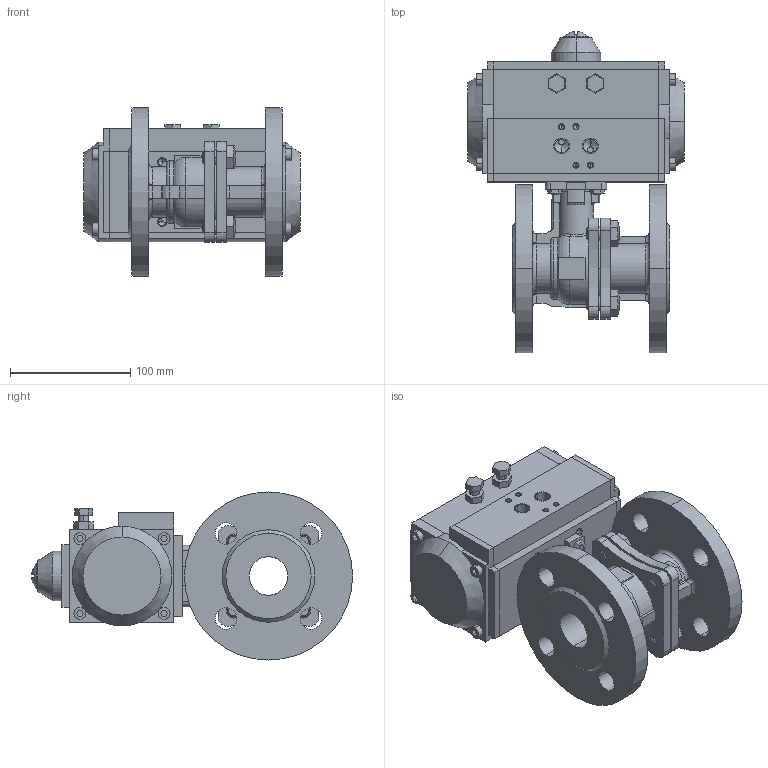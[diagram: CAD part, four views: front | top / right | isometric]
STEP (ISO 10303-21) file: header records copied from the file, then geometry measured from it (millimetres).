
FILE_DESCRIPTION((''),'2;1');
FILE_NAME('BV-22F_RPA_ASM','2024-09-11T',('USER'),(''),'PRO/ENGINEER BY PARAMETRIC TECHNOLOGY CORPORATION, 2011220','PRO/ENGINEER BY PARAMETRIC TECHNOLOGY CORPORATION, 2011220','');
FILE_SCHEMA(('CONFIG_CONTROL_DESIGN'));
Length unit declared in the file: millimetre
Products named in the file (12): KORPUS_KRAN_FL; B-7798-M12-20; SB_KRAN_FL_ASM; KORPUS_PNEVMOPRIVOD; KOLCO_18_GOST13942; KRISKA_VERX; VINT; KRISKA_LEFT; KRISKA_RIGHT; SB_PNEVMOPRIVOD_ASM; B-7798-M6-14; BV-22F_RPA_ASM
Assembly tree (17 placements, depth 3):
  BV-22F_RPA_ASM
    SB_KRAN_FL_ASM
      KORPUS_KRAN_FL
      B-7798-M12-20  x4
    SB_PNEVMOPRIVOD_ASM
      KORPUS_PNEVMOPRIVOD
      KOLCO_18_GOST13942
      KRISKA_VERX
      VINT
      KRISKA_LEFT
      KRISKA_RIGHT
    B-7798-M6-14  x4
Bounding box: 180 x 267.43 x 140 mm (x, y, z)
Volume: 2037356.5 mm3; surface area: 278885.5 mm2
Topology: 15 solids, 49 shells, 824 faces, 2108 edges, 1356 vertices
Faces by surface type: plane 410, cylinder 285, cone 82, torus 29, bspline 14, extrusion 2, sphere 2
Entity records: 23119 total; most frequent: CARTESIAN_POINT 5044, DIRECTION 3856, ORIENTED_EDGE 3520, EDGE_CURVE 1818, AXIS2_PLACEMENT_3D 1382, VERTEX_POINT 1200, VECTOR 1092, LINE 1090
